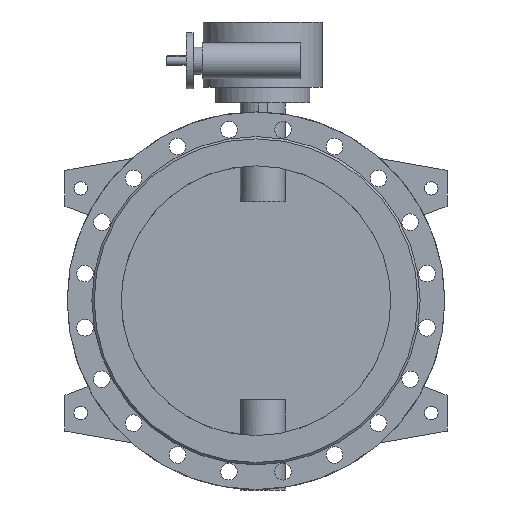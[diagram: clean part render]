
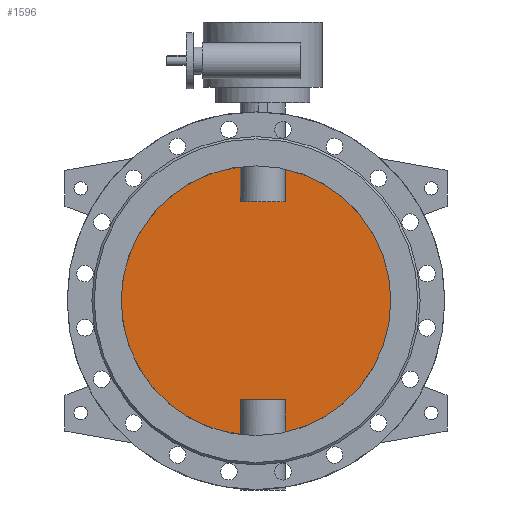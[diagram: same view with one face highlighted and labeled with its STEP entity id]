
A CAD part, front view. The second image highlights one B-rep face of the part: STEP entity #1596.
In plain terms, the highlighted planar face has unit normal (0, -1, 0).
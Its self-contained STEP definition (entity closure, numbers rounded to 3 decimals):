
#1596=ADVANCED_FACE('',(#3324),#3326,.F.);
#3324=FACE_BOUND('',#3325,.T.);
#3325=EDGE_LOOP('',(#4186,#4187,#4188,#4189,#4190,#4191,#4192,#4193));
#3326=PLANE('',#3327);
#3327=AXIS2_PLACEMENT_3D('',#3328,#3329,#3330);
#3328=CARTESIAN_POINT('',(0.,-5.,0.));
#3329=DIRECTION('',(0.,1.,0.));
#3330=DIRECTION('',(1.,0.,0.));
#4186=ORIENTED_EDGE('',*,*,#4617,.T.);
#4187=ORIENTED_EDGE('',*,*,#4623,.T.);
#4188=ORIENTED_EDGE('',*,*,#4624,.T.);
#4189=ORIENTED_EDGE('',*,*,#4625,.T.);
#4190=ORIENTED_EDGE('',*,*,#4619,.T.);
#4191=ORIENTED_EDGE('',*,*,#4626,.T.);
#4192=ORIENTED_EDGE('',*,*,#4627,.T.);
#4193=ORIENTED_EDGE('',*,*,#4628,.T.);
#4617=EDGE_CURVE('',#5321,#5322,#5323,.F.);
#4619=EDGE_CURVE('',#5326,#5324,#5327,.F.);
#4623=EDGE_CURVE('',#5322,#5333,#5334,.T.);
#4624=EDGE_CURVE('',#5333,#5335,#5336,.F.);
#4625=EDGE_CURVE('',#5335,#5326,#5337,.F.);
#4626=EDGE_CURVE('',#5324,#5338,#5339,.F.);
#4627=EDGE_CURVE('',#5338,#5340,#5341,.F.);
#4628=EDGE_CURVE('',#5340,#5321,#5342,.T.);
#5321=VERTEX_POINT('',#7789);
#5322=VERTEX_POINT('',#7790);
#5323=CIRCLE('',#7791,300.);
#5324=VERTEX_POINT('',#7795);
#5326=VERTEX_POINT('',#7882);
#5327=CIRCLE('',#7883,300.);
#5333=VERTEX_POINT('',#8005);
#5334=LINE('',#8006,#8007);
#5335=VERTEX_POINT('',#8009);
#5336=LINE('',#8010,#8011);
#5337=LINE('',#8013,#8014);
#5338=VERTEX_POINT('',#8016);
#5339=LINE('',#8017,#8018);
#5340=VERTEX_POINT('',#8020);
#5341=LINE('',#8021,#8022);
#5342=LINE('',#8024,#8025);
#7789=CARTESIAN_POINT('',(64.749,-5.,-292.929));
#7790=CARTESIAN_POINT('',(64.749,-5.,292.929));
#7791=AXIS2_PLACEMENT_3D('',#7792,#7793,#7794);
#7792=CARTESIAN_POINT('',(0.,-5.,0.));
#7793=DIRECTION('',(0.,1.,0.));
#7794=DIRECTION('',(0.216,0.,0.976));
#7795=CARTESIAN_POINT('',(-34.749,-5.,-297.981));
#7882=CARTESIAN_POINT('',(-34.749,-5.,297.981));
#7883=AXIS2_PLACEMENT_3D('',#7884,#7885,#7886);
#7884=CARTESIAN_POINT('',(0.,-5.,0.));
#7885=DIRECTION('',(0.,1.,0.));
#7886=DIRECTION('',(-0.116,0.,-0.993));
#8005=CARTESIAN_POINT('',(64.749,-5.,220.));
#8006=CARTESIAN_POINT('',(64.749,-5.,292.929));
#8007=VECTOR('',#8008,1.);
#8008=DIRECTION('',(0.,0.,-1.));
#8009=CARTESIAN_POINT('',(-34.749,-5.,220.));
#8010=CARTESIAN_POINT('',(-34.749,-5.,220.));
#8011=VECTOR('',#8012,1.);
#8012=DIRECTION('',(1.,0.,0.));
#8013=CARTESIAN_POINT('',(-34.749,-5.,297.981));
#8014=VECTOR('',#8015,1.);
#8015=DIRECTION('',(0.,0.,-1.));
#8016=CARTESIAN_POINT('',(-34.749,-5.,-220.));
#8017=CARTESIAN_POINT('',(-34.749,-5.,-220.));
#8018=VECTOR('',#8019,1.);
#8019=DIRECTION('',(0.,0.,-1.));
#8020=CARTESIAN_POINT('',(64.749,-5.,-220.));
#8021=CARTESIAN_POINT('',(64.749,-5.,-220.));
#8022=VECTOR('',#8023,1.);
#8023=DIRECTION('',(-1.,0.,0.));
#8024=CARTESIAN_POINT('',(64.749,-5.,-220.));
#8025=VECTOR('',#8026,1.);
#8026=DIRECTION('',(0.,0.,-1.));
